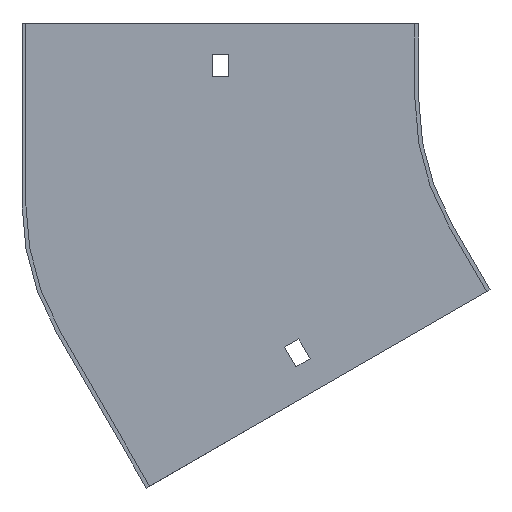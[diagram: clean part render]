
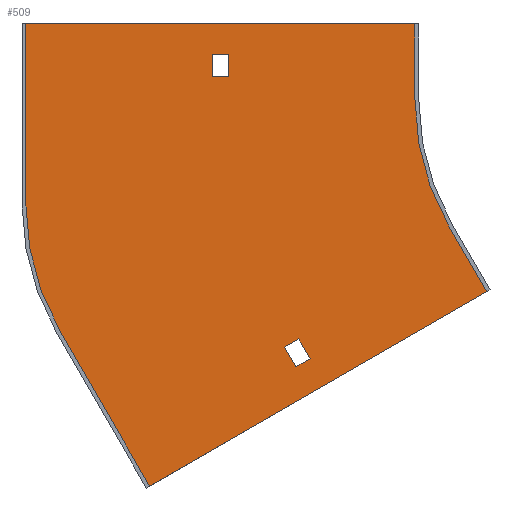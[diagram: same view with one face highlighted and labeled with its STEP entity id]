
A CAD part, front view. The second image highlights one B-rep face of the part: STEP entity #509.
In plain terms, the highlighted planar face has unit normal (0, -1, 0).
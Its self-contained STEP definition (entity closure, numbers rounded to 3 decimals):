
#6 = VERTEX_POINT ( 'NONE', #259 ) ;
#7 = CARTESIAN_POINT ( 'NONE',  ( -254., -1.5, 30. ) ) ;
#10 = CARTESIAN_POINT ( 'NONE',  ( -100., -1.5, 30. ) ) ;
#34 = ORIENTED_EDGE ( 'NONE', *, *, #569, .F. ) ;
#35 = CARTESIAN_POINT ( 'NONE',  ( -180.25, -1.5, 0. ) ) ;
#36 = VECTOR ( 'NONE', #363, 1000. ) ;
#42 = EDGE_CURVE ( 'NONE', #526, #769, #841, .T. ) ;
#43 = EDGE_CURVE ( 'NONE', #821, #795, #667, .T. ) ;
#45 = LINE ( 'NONE', #720, #659 ) ;
#46 = ORIENTED_EDGE ( 'NONE', *, *, #104, .F. ) ;
#53 = CIRCLE ( 'NONE', #655, 100. ) ;
#70 = DIRECTION ( 'NONE',  ( 1., 0., 0. ) ) ;
#80 = LINE ( 'NONE', #736, #465 ) ;
#86 = LINE ( 'NONE', #360, #36 ) ;
#91 = VERTEX_POINT ( 'NONE', #7 ) ;
#103 = CARTESIAN_POINT ( 'NONE',  ( -204.97, -1.5, -152.981 ) ) ;
#104 = EDGE_CURVE ( 'NONE', #137, #821, #735, .T. ) ;
#105 = DIRECTION ( 'NONE',  ( 0., 0., -1. ) ) ;
#116 = CARTESIAN_POINT ( 'NONE',  ( -180.25, -1.5, 18. ) ) ;
#126 = DIRECTION ( 'NONE',  ( 0., -1., 0. ) ) ;
#127 = EDGE_CURVE ( 'NONE', #554, #526, #805, .T. ) ;
#129 = EDGE_CURVE ( 'NONE', #91, #644, #601, .T. ) ;
#132 = CARTESIAN_POINT ( 'NONE',  ( -255.5, -1.5, 30. ) ) ;
#133 = VECTOR ( 'NONE', #451, 1000. ) ;
#135 = VECTOR ( 'NONE', #615, 1000. ) ;
#137 = VERTEX_POINT ( 'NONE', #855 ) ;
#145 = VECTOR ( 'NONE', #461, 1000. ) ;
#147 = VECTOR ( 'NONE', #607, 1000. ) ;
#159 = ORIENTED_EDGE ( 'NONE', *, *, #863, .T. ) ;
#176 = ORIENTED_EDGE ( 'NONE', *, *, #421, .F. ) ;
#182 = EDGE_CURVE ( 'NONE', #291, #91, #540, .T. ) ;
#191 = CARTESIAN_POINT ( 'NONE',  ( -173.75, -1.5, 0. ) ) ;
#193 = CARTESIAN_POINT ( 'NONE',  ( -71.603, -1.5, -75.981 ) ) ;
#208 = CARTESIAN_POINT ( 'NONE',  ( 0., -1.5, 18. ) ) ;
#215 = CIRCLE ( 'NONE', #708, 100. ) ;
#219 = LINE ( 'NONE', #35, #707 ) ;
#221 = EDGE_CURVE ( 'NONE', #795, #537, #418, .T. ) ;
#233 = EDGE_CURVE ( 'NONE', #6, #291, #53, .T. ) ;
#242 = PLANE ( 'NONE',  #519 ) ;
#251 = CARTESIAN_POINT ( 'NONE',  ( 4.5, -1.5, -7.794 ) ) ;
#258 = VERTEX_POINT ( 'NONE', #683 ) ;
#259 = CARTESIAN_POINT ( 'NONE',  ( -240.603, -1.5, -91.264 ) ) ;
#263 = ORIENTED_EDGE ( 'NONE', *, *, #129, .F. ) ;
#265 = CARTESIAN_POINT ( 'NONE',  ( -86.603, -1.5, -50. ) ) ;
#266 = DIRECTION ( 'NONE',  ( 0.866, 0., 0.5 ) ) ;
#281 = EDGE_LOOP ( 'NONE', ( #263, #658, #299, #176, #798, #817, #570, #518 ) ) ;
#291 = VERTEX_POINT ( 'NONE', #369 ) ;
#299 = ORIENTED_EDGE ( 'NONE', *, *, #233, .F. ) ;
#300 = EDGE_CURVE ( 'NONE', #450, #554, #219, .T. ) ;
#304 = DIRECTION ( 'NONE',  ( 0., 0., 1. ) ) ;
#314 = CARTESIAN_POINT ( 'NONE',  ( -180.25, -1.5, 9. ) ) ;
#319 = ORIENTED_EDGE ( 'NONE', *, *, #127, .T. ) ;
#337 = LINE ( 'NONE', #467, #744 ) ;
#338 = EDGE_LOOP ( 'NONE', ( #46, #34, #857, #600 ) ) ;
#359 = CARTESIAN_POINT ( 'NONE',  ( -151.601, -1.5, -97.919 ) ) ;
#360 = CARTESIAN_POINT ( 'NONE',  ( -204.97, -1.5, -152.981 ) ) ;
#363 = DIRECTION ( 'NONE',  ( -0.5, 0., 0.866 ) ) ;
#369 = CARTESIAN_POINT ( 'NONE',  ( -254., -1.5, -41.264 ) ) ;
#376 = FACE_OUTER_BOUND ( 'NONE', #281, .T. ) ;
#395 = VECTOR ( 'NONE', #70, 1000. ) ;
#416 = CARTESIAN_POINT ( 'NONE',  ( 0., -1.5, 9. ) ) ;
#418 = LINE ( 'NONE', #483, #135 ) ;
#421 = EDGE_CURVE ( 'NONE', #489, #6, #86, .T. ) ;
#431 = CARTESIAN_POINT ( 'NONE',  ( -154., -1.5, -41.264 ) ) ;
#447 = FACE_BOUND ( 'NONE', #504, .T. ) ;
#449 = VECTOR ( 'NONE', #532, 1000. ) ;
#450 = VERTEX_POINT ( 'NONE', #314 ) ;
#451 = DIRECTION ( 'NONE',  ( 0., 0., -1. ) ) ;
#455 = DIRECTION ( 'NONE',  ( 0., -1., 0. ) ) ;
#458 = EDGE_CURVE ( 'NONE', #691, #489, #45, .T. ) ;
#461 = DIRECTION ( 'NONE',  ( 0., 0., -1. ) ) ;
#465 = VECTOR ( 'NONE', #616, 1000. ) ;
#467 = CARTESIAN_POINT ( 'NONE',  ( 9., -1.5, -15.588 ) ) ;
#470 = LINE ( 'NONE', #579, #145 ) ;
#478 = VECTOR ( 'NONE', #676, 1000. ) ;
#483 = CARTESIAN_POINT ( 'NONE',  ( -156.101, -1.5, -90.125 ) ) ;
#488 = CARTESIAN_POINT ( 'NONE',  ( -145.972, -1.5, -94.669 ) ) ;
#489 = VERTEX_POINT ( 'NONE', #103 ) ;
#504 = EDGE_LOOP ( 'NONE', ( #319, #802, #159, #854 ) ) ;
#509 = ADVANCED_FACE ( 'NONE', ( #773, #376, #447 ), #242, .T. ) ;
#517 = DIRECTION ( 'NONE',  ( -0.866, 0., -0.5 ) ) ;
#518 = ORIENTED_EDGE ( 'NONE', *, *, #743, .F. ) ;
#519 = AXIS2_PLACEMENT_3D ( 'NONE', #724, #455, #105 ) ;
#526 = VERTEX_POINT ( 'NONE', #713 ) ;
#532 = DIRECTION ( 'NONE',  ( -0.5, 0., 0.866 ) ) ;
#537 = VERTEX_POINT ( 'NONE', #835 ) ;
#540 = LINE ( 'NONE', #745, #147 ) ;
#552 = DIRECTION ( 'NONE',  ( 0., 1., 0. ) ) ;
#554 = VERTEX_POINT ( 'NONE', #116 ) ;
#569 = EDGE_CURVE ( 'NONE', #537, #137, #337, .T. ) ;
#570 = ORIENTED_EDGE ( 'NONE', *, *, #711, .F. ) ;
#579 = CARTESIAN_POINT ( 'NONE',  ( -100., -1.5, 30. ) ) ;
#594 = CARTESIAN_POINT ( 'NONE',  ( -150.472, -1.5, -86.875 ) ) ;
#600 = ORIENTED_EDGE ( 'NONE', *, *, #43, .F. ) ;
#601 = LINE ( 'NONE', #132, #395 ) ;
#602 = DIRECTION ( 'NONE',  ( 0., 0., -1. ) ) ;
#607 = DIRECTION ( 'NONE',  ( 0., 0., 1. ) ) ;
#615 = DIRECTION ( 'NONE',  ( 0.5, 0., -0.866 ) ) ;
#616 = DIRECTION ( 'NONE',  ( 0.5, 0., -0.866 ) ) ;
#625 = VECTOR ( 'NONE', #787, 1000. ) ;
#644 = VERTEX_POINT ( 'NONE', #10 ) ;
#655 = AXIS2_PLACEMENT_3D ( 'NONE', #431, #552, #815 ) ;
#658 = ORIENTED_EDGE ( 'NONE', *, *, #182, .F. ) ;
#659 = VECTOR ( 'NONE', #517, 1000. ) ;
#667 = LINE ( 'NONE', #251, #625 ) ;
#668 = DIRECTION ( 'NONE',  ( 1., 0., 0. ) ) ;
#676 = DIRECTION ( 'NONE',  ( -1., 0., 0. ) ) ;
#677 = VERTEX_POINT ( 'NONE', #265 ) ;
#683 = CARTESIAN_POINT ( 'NONE',  ( -100., -1.5, 0. ) ) ;
#691 = VERTEX_POINT ( 'NONE', #193 ) ;
#697 = VECTOR ( 'NONE', #668, 1000. ) ;
#707 = VECTOR ( 'NONE', #304, 1000. ) ;
#708 = AXIS2_PLACEMENT_3D ( 'NONE', #734, #126, #602 ) ;
#711 = EDGE_CURVE ( 'NONE', #258, #677, #215, .T. ) ;
#713 = CARTESIAN_POINT ( 'NONE',  ( -173.75, -1.5, 18. ) ) ;
#720 = CARTESIAN_POINT ( 'NONE',  ( -70.304, -1.5, -75.231 ) ) ;
#724 = CARTESIAN_POINT ( 'NONE',  ( 0., -1.5, 0. ) ) ;
#734 = CARTESIAN_POINT ( 'NONE',  ( 0., -1.5, 0. ) ) ;
#735 = LINE ( 'NONE', #594, #449 ) ;
#736 = CARTESIAN_POINT ( 'NONE',  ( -86.603, -1.5, -50. ) ) ;
#740 = LINE ( 'NONE', #416, #478 ) ;
#743 = EDGE_CURVE ( 'NONE', #644, #258, #470, .T. ) ;
#744 = VECTOR ( 'NONE', #266, 1000. ) ;
#745 = CARTESIAN_POINT ( 'NONE',  ( -254., -1.5, -41.264 ) ) ;
#769 = VERTEX_POINT ( 'NONE', #793 ) ;
#773 = FACE_BOUND ( 'NONE', #338, .T. ) ;
#787 = DIRECTION ( 'NONE',  ( -0.866, 0., -0.5 ) ) ;
#793 = CARTESIAN_POINT ( 'NONE',  ( -173.75, -1.5, 9. ) ) ;
#795 = VERTEX_POINT ( 'NONE', #359 ) ;
#798 = ORIENTED_EDGE ( 'NONE', *, *, #458, .F. ) ;
#802 = ORIENTED_EDGE ( 'NONE', *, *, #42, .T. ) ;
#805 = LINE ( 'NONE', #208, #697 ) ;
#815 = DIRECTION ( 'NONE',  ( 0., 0., -1. ) ) ;
#817 = ORIENTED_EDGE ( 'NONE', *, *, #827, .F. ) ;
#821 = VERTEX_POINT ( 'NONE', #488 ) ;
#827 = EDGE_CURVE ( 'NONE', #677, #691, #80, .T. ) ;
#835 = CARTESIAN_POINT ( 'NONE',  ( -147.101, -1.5, -105.713 ) ) ;
#841 = LINE ( 'NONE', #191, #133 ) ;
#854 = ORIENTED_EDGE ( 'NONE', *, *, #300, .T. ) ;
#855 = CARTESIAN_POINT ( 'NONE',  ( -141.472, -1.5, -102.463 ) ) ;
#857 = ORIENTED_EDGE ( 'NONE', *, *, #221, .F. ) ;
#863 = EDGE_CURVE ( 'NONE', #769, #450, #740, .T. ) ;
